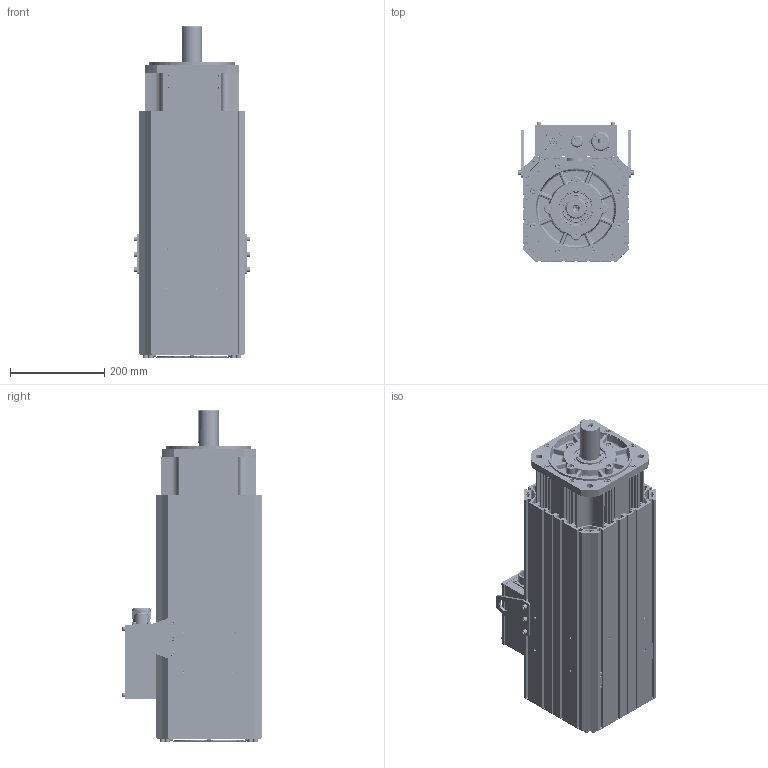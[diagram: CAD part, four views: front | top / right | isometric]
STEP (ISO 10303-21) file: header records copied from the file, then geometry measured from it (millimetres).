
FILE_DESCRIPTION (( 'STEP AP214' ), '1' );
FILE_NAME ('VM7-M20D-02015-D2FN.STEP', '2022-04-02T01:56:38', ( '' ), ( '' ), 'SwSTEP 2.0', 'SolidWorks 2014', '' );
FILE_SCHEMA (( 'AUTOMOTIVE_DESIGN' ));
Length unit declared in the file: millimetre
Products named in the file (3): 翋极ㄗVM7-M20Dㄘ; 俋褲ㄗVM7-M20Dㄘ; VM7-M20D-02015-D2FN
Assembly tree (2 placements, depth 2):
  VM7-M20D-02015-D2FN
    翋极ㄗVM7-M20Dㄘ
    俋褲ㄗVM7-M20Dㄘ
Bounding box: 246.2 x 294.7 x 703 mm (x, y, z)
Volume: 2134379.2 mm3; surface area: 3009892.8 mm2
Topology: 45 solids, 183 shells, 5660 faces, 14472 edges, 9117 vertices
Faces by surface type: plane 3221, cylinder 1323, cone 587, bspline 529
Entity records: 187119 total; most frequent: CARTESIAN_POINT 50233, ORIENTED_EDGE 28442, DIRECTION 27688, EDGE_CURVE 14230, AXIS2_PLACEMENT_3D 9527, VERTEX_POINT 9117, VECTOR 8634, LINE 8634
